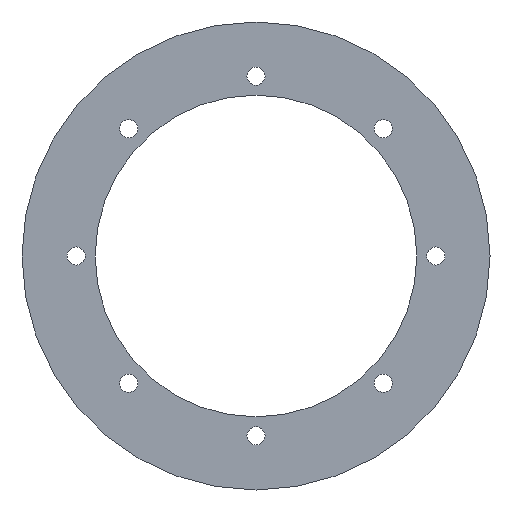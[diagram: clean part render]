
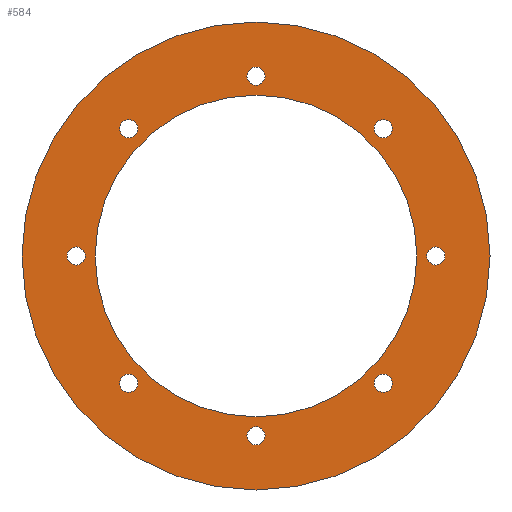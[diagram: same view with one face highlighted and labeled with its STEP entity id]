
A CAD part, front view. The second image highlights one B-rep face of the part: STEP entity #584.
In plain terms, the highlighted planar face has unit normal (0, -1, 0).
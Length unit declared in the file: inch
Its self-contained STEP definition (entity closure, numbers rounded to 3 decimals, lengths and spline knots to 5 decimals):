
#35=FACE_BOUND('',#106,.T.);
#36=FACE_BOUND('',#107,.T.);
#37=FACE_BOUND('',#108,.T.);
#38=FACE_BOUND('',#109,.T.);
#39=FACE_BOUND('',#110,.T.);
#40=FACE_BOUND('',#111,.T.);
#41=FACE_BOUND('',#112,.T.);
#42=FACE_BOUND('',#113,.T.);
#43=FACE_BOUND('',#114,.T.);
#55=PLANE('',#736);
#79=FACE_OUTER_BOUND('',#105,.T.);
#105=EDGE_LOOP('',(#505,#506));
#106=EDGE_LOOP('',(#507,#508));
#107=EDGE_LOOP('',(#509,#510));
#108=EDGE_LOOP('',(#511,#512));
#109=EDGE_LOOP('',(#513,#514));
#110=EDGE_LOOP('',(#515,#516));
#111=EDGE_LOOP('',(#517,#518));
#112=EDGE_LOOP('',(#519,#520));
#113=EDGE_LOOP('',(#521,#522));
#114=EDGE_LOOP('',(#523,#524));
#177=CIRCLE('',#668,0.06102);
#178=CIRCLE('',#669,0.06102);
#183=CIRCLE('',#676,0.06102);
#184=CIRCLE('',#677,0.06102);
#189=CIRCLE('',#684,0.06102);
#190=CIRCLE('',#685,0.06102);
#195=CIRCLE('',#692,0.06102);
#196=CIRCLE('',#693,0.06102);
#201=CIRCLE('',#700,0.06102);
#202=CIRCLE('',#701,0.06102);
#207=CIRCLE('',#708,0.06102);
#208=CIRCLE('',#709,0.06102);
#213=CIRCLE('',#716,0.06102);
#214=CIRCLE('',#717,0.06102);
#219=CIRCLE('',#724,0.06102);
#220=CIRCLE('',#725,0.06102);
#221=CIRCLE('',#727,1.5748);
#222=CIRCLE('',#728,1.5748);
#227=CIRCLE('',#734,1.08268);
#228=CIRCLE('',#735,1.08268);
#241=VERTEX_POINT('',#982);
#242=VERTEX_POINT('',#983);
#247=VERTEX_POINT('',#998);
#248=VERTEX_POINT('',#999);
#253=VERTEX_POINT('',#1014);
#254=VERTEX_POINT('',#1015);
#259=VERTEX_POINT('',#1030);
#260=VERTEX_POINT('',#1031);
#265=VERTEX_POINT('',#1046);
#266=VERTEX_POINT('',#1047);
#271=VERTEX_POINT('',#1062);
#272=VERTEX_POINT('',#1063);
#277=VERTEX_POINT('',#1078);
#278=VERTEX_POINT('',#1079);
#283=VERTEX_POINT('',#1094);
#284=VERTEX_POINT('',#1095);
#285=VERTEX_POINT('',#1100);
#286=VERTEX_POINT('',#1101);
#291=VERTEX_POINT('',#1114);
#292=VERTEX_POINT('',#1116);
#308=EDGE_CURVE('',#241,#242,#177,.T.);
#309=EDGE_CURVE('',#242,#241,#178,.T.);
#316=EDGE_CURVE('',#247,#248,#183,.T.);
#317=EDGE_CURVE('',#248,#247,#184,.T.);
#324=EDGE_CURVE('',#253,#254,#189,.T.);
#325=EDGE_CURVE('',#254,#253,#190,.T.);
#332=EDGE_CURVE('',#259,#260,#195,.T.);
#333=EDGE_CURVE('',#260,#259,#196,.T.);
#340=EDGE_CURVE('',#265,#266,#201,.T.);
#341=EDGE_CURVE('',#266,#265,#202,.T.);
#348=EDGE_CURVE('',#271,#272,#207,.T.);
#349=EDGE_CURVE('',#272,#271,#208,.T.);
#356=EDGE_CURVE('',#277,#278,#213,.T.);
#357=EDGE_CURVE('',#278,#277,#214,.T.);
#364=EDGE_CURVE('',#283,#284,#219,.T.);
#365=EDGE_CURVE('',#284,#283,#220,.T.);
#367=EDGE_CURVE('',#285,#286,#221,.T.);
#368=EDGE_CURVE('',#286,#285,#222,.T.);
#375=EDGE_CURVE('',#291,#292,#227,.T.);
#376=EDGE_CURVE('',#292,#291,#228,.T.);
#505=ORIENTED_EDGE('',*,*,#367,.T.);
#506=ORIENTED_EDGE('',*,*,#368,.T.);
#507=ORIENTED_EDGE('',*,*,#364,.T.);
#508=ORIENTED_EDGE('',*,*,#365,.T.);
#509=ORIENTED_EDGE('',*,*,#356,.T.);
#510=ORIENTED_EDGE('',*,*,#357,.T.);
#511=ORIENTED_EDGE('',*,*,#348,.T.);
#512=ORIENTED_EDGE('',*,*,#349,.T.);
#513=ORIENTED_EDGE('',*,*,#340,.T.);
#514=ORIENTED_EDGE('',*,*,#341,.T.);
#515=ORIENTED_EDGE('',*,*,#332,.T.);
#516=ORIENTED_EDGE('',*,*,#333,.T.);
#517=ORIENTED_EDGE('',*,*,#324,.T.);
#518=ORIENTED_EDGE('',*,*,#325,.T.);
#519=ORIENTED_EDGE('',*,*,#316,.T.);
#520=ORIENTED_EDGE('',*,*,#317,.T.);
#521=ORIENTED_EDGE('',*,*,#308,.T.);
#522=ORIENTED_EDGE('',*,*,#309,.T.);
#523=ORIENTED_EDGE('',*,*,#376,.F.);
#524=ORIENTED_EDGE('',*,*,#375,.F.);
#584=ADVANCED_FACE('',(#79,#35,#36,#37,#38,#39,#40,#41,#42,#43),#55,.F.);
#668=AXIS2_PLACEMENT_3D('',#984,#785,#786);
#669=AXIS2_PLACEMENT_3D('',#985,#787,#788);
#676=AXIS2_PLACEMENT_3D('',#1000,#803,#804);
#677=AXIS2_PLACEMENT_3D('',#1001,#805,#806);
#684=AXIS2_PLACEMENT_3D('',#1016,#821,#822);
#685=AXIS2_PLACEMENT_3D('',#1017,#823,#824);
#692=AXIS2_PLACEMENT_3D('',#1032,#839,#840);
#693=AXIS2_PLACEMENT_3D('',#1033,#841,#842);
#700=AXIS2_PLACEMENT_3D('',#1048,#857,#858);
#701=AXIS2_PLACEMENT_3D('',#1049,#859,#860);
#708=AXIS2_PLACEMENT_3D('',#1064,#875,#876);
#709=AXIS2_PLACEMENT_3D('',#1065,#877,#878);
#716=AXIS2_PLACEMENT_3D('',#1080,#893,#894);
#717=AXIS2_PLACEMENT_3D('',#1081,#895,#896);
#724=AXIS2_PLACEMENT_3D('',#1096,#911,#912);
#725=AXIS2_PLACEMENT_3D('',#1097,#913,#914);
#727=AXIS2_PLACEMENT_3D('',#1102,#918,#919);
#728=AXIS2_PLACEMENT_3D('',#1103,#920,#921);
#734=AXIS2_PLACEMENT_3D('',#1117,#934,#935);
#735=AXIS2_PLACEMENT_3D('',#1118,#936,#937);
#736=AXIS2_PLACEMENT_3D('',#1119,#938,#939);
#785=DIRECTION('center_axis',(0.,1.,0.));
#786=DIRECTION('ref_axis',(0.,0.,1.));
#787=DIRECTION('center_axis',(0.,1.,0.));
#788=DIRECTION('ref_axis',(0.,0.,1.));
#803=DIRECTION('center_axis',(0.,1.,0.));
#804=DIRECTION('ref_axis',(0.,0.,1.));
#805=DIRECTION('center_axis',(0.,1.,0.));
#806=DIRECTION('ref_axis',(0.,0.,1.));
#821=DIRECTION('center_axis',(0.,1.,0.));
#822=DIRECTION('ref_axis',(0.,0.,1.));
#823=DIRECTION('center_axis',(0.,1.,0.));
#824=DIRECTION('ref_axis',(0.,0.,1.));
#839=DIRECTION('center_axis',(0.,1.,0.));
#840=DIRECTION('ref_axis',(0.,0.,1.));
#841=DIRECTION('center_axis',(0.,1.,0.));
#842=DIRECTION('ref_axis',(0.,0.,1.));
#857=DIRECTION('center_axis',(0.,1.,0.));
#858=DIRECTION('ref_axis',(0.,0.,1.));
#859=DIRECTION('center_axis',(0.,1.,0.));
#860=DIRECTION('ref_axis',(0.,0.,1.));
#875=DIRECTION('center_axis',(0.,1.,0.));
#876=DIRECTION('ref_axis',(0.,0.,1.));
#877=DIRECTION('center_axis',(0.,1.,0.));
#878=DIRECTION('ref_axis',(0.,0.,1.));
#893=DIRECTION('center_axis',(0.,1.,0.));
#894=DIRECTION('ref_axis',(0.,0.,1.));
#895=DIRECTION('center_axis',(0.,1.,0.));
#896=DIRECTION('ref_axis',(0.,0.,1.));
#911=DIRECTION('center_axis',(0.,1.,0.));
#912=DIRECTION('ref_axis',(0.,0.,1.));
#913=DIRECTION('center_axis',(0.,1.,0.));
#914=DIRECTION('ref_axis',(0.,0.,1.));
#918=DIRECTION('center_axis',(0.,-1.,0.));
#919=DIRECTION('ref_axis',(0.,0.,-1.));
#920=DIRECTION('center_axis',(0.,-1.,0.));
#921=DIRECTION('ref_axis',(0.,0.,-1.));
#934=DIRECTION('center_axis',(0.,-1.,0.));
#935=DIRECTION('ref_axis',(0.,0.,-1.));
#936=DIRECTION('center_axis',(0.,-1.,0.));
#937=DIRECTION('ref_axis',(0.,0.,-1.));
#938=DIRECTION('center_axis',(0.,1.,0.));
#939=DIRECTION('ref_axis',(0.,0.,1.));
#982=CARTESIAN_POINT('',(0.,0.,-1.14961));
#983=CARTESIAN_POINT('',(0.,0.,-1.27165));
#984=CARTESIAN_POINT('Origin',(0.,0.,-1.21063));
#985=CARTESIAN_POINT('Origin',(0.,0.,-1.21063));
#998=CARTESIAN_POINT('',(0.85604,0.,-0.79502));
#999=CARTESIAN_POINT('',(0.85604,0.,-0.91707));
#1000=CARTESIAN_POINT('Origin',(0.85604,0.,
-0.85604));
#1001=CARTESIAN_POINT('Origin',(0.85604,0.,
-0.85604));
#1014=CARTESIAN_POINT('',(1.21063,0.,0.06102));
#1015=CARTESIAN_POINT('',(1.21063,0.,-0.06102));
#1016=CARTESIAN_POINT('Origin',(1.21063,0.,
0.));
#1017=CARTESIAN_POINT('Origin',(1.21063,0.,
0.));
#1030=CARTESIAN_POINT('',(0.85604,0.,0.91707));
#1031=CARTESIAN_POINT('',(0.85604,0.,0.79502));
#1032=CARTESIAN_POINT('Origin',(0.85604,0.,
0.85604));
#1033=CARTESIAN_POINT('Origin',(0.85604,0.,
0.85604));
#1046=CARTESIAN_POINT('',(0.,0.,1.27165));
#1047=CARTESIAN_POINT('',(0.,0.,1.14961));
#1048=CARTESIAN_POINT('Origin',(0.,0.,1.21063));
#1049=CARTESIAN_POINT('Origin',(0.,0.,1.21063));
#1062=CARTESIAN_POINT('',(-0.85604,0.,0.91707));
#1063=CARTESIAN_POINT('',(-0.85604,0.,0.79502));
#1064=CARTESIAN_POINT('Origin',(-0.85604,0.,
0.85604));
#1065=CARTESIAN_POINT('Origin',(-0.85604,0.,
0.85604));
#1078=CARTESIAN_POINT('',(-1.21063,0.,0.06102));
#1079=CARTESIAN_POINT('',(-1.21063,0.,-0.06102));
#1080=CARTESIAN_POINT('Origin',(-1.21063,0.,
0.));
#1081=CARTESIAN_POINT('Origin',(-1.21063,0.,
0.));
#1094=CARTESIAN_POINT('',(-0.85604,0.,-0.79502));
#1095=CARTESIAN_POINT('',(-0.85604,0.,-0.91707));
#1096=CARTESIAN_POINT('Origin',(-0.85604,0.,
-0.85604));
#1097=CARTESIAN_POINT('Origin',(-0.85604,0.,
-0.85604));
#1100=CARTESIAN_POINT('',(0.,0.,-1.5748));
#1101=CARTESIAN_POINT('',(0.,0.,1.5748));
#1102=CARTESIAN_POINT('Origin',(0.,0.,0.));
#1103=CARTESIAN_POINT('Origin',(0.,0.,0.));
#1114=CARTESIAN_POINT('',(0.,0.,1.08268));
#1116=CARTESIAN_POINT('',(0.,0.,-1.08268));
#1117=CARTESIAN_POINT('Origin',(0.,0.,0.));
#1118=CARTESIAN_POINT('Origin',(0.,0.,0.));
#1119=CARTESIAN_POINT('Origin',(-1.5748,0.,0.));
